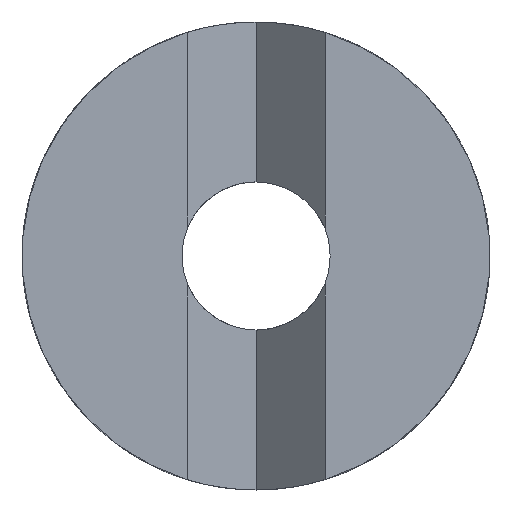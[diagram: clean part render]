
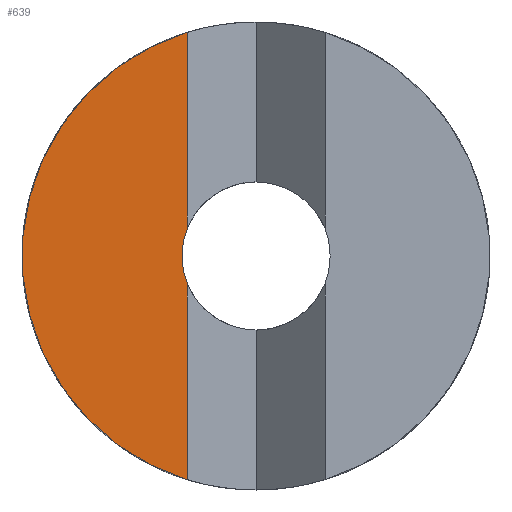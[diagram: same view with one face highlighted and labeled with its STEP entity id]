
A CAD part, left-side view. The second image highlights one B-rep face of the part: STEP entity #639.
In plain terms, the highlighted planar face has unit normal (-1, 0, 0).
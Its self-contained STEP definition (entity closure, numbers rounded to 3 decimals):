
#86=LINE('',#1201,#111);
#87=LINE('',#1202,#112);
#111=VECTOR('',#894,10.);
#112=VECTOR('',#895,10.);
#127=PLANE('',#738);
#158=FACE_OUTER_BOUND('',#197,.T.);
#197=EDGE_LOOP('',(#521,#522,#523,#524));
#230=CIRCLE('',#704,1.5);
#238=CIRCLE('',#734,4.737);
#272=VERTEX_POINT('',#1006);
#273=VERTEX_POINT('',#1008);
#295=VERTEX_POINT('',#1077);
#296=VERTEX_POINT('',#1079);
#341=EDGE_CURVE('',#273,#272,#230,.T.);
#376=EDGE_CURVE('',#296,#295,#238,.T.);
#389=EDGE_CURVE('',#273,#295,#86,.T.);
#390=EDGE_CURVE('',#296,#272,#87,.T.);
#521=ORIENTED_EDGE('',*,*,#376,.T.);
#522=ORIENTED_EDGE('',*,*,#389,.F.);
#523=ORIENTED_EDGE('',*,*,#341,.T.);
#524=ORIENTED_EDGE('',*,*,#390,.F.);
#639=ADVANCED_FACE('',(#158),#127,.T.);
#704=AXIS2_PLACEMENT_3D('',#1009,#811,#812);
#734=AXIS2_PLACEMENT_3D('',#1080,#883,#884);
#738=AXIS2_PLACEMENT_3D('',#1200,#892,#893);
#811=DIRECTION('center_axis',(1.,0.,0.));
#812=DIRECTION('ref_axis',(0.,1.,0.));
#883=DIRECTION('center_axis',(-1.,0.,0.));
#884=DIRECTION('ref_axis',(0.,-0.257,-0.966));
#892=DIRECTION('center_axis',(-1.,0.,0.));
#893=DIRECTION('ref_axis',(0.,-1.,0.));
#894=DIRECTION('',(0.,0.,-1.));
#895=DIRECTION('',(0.,0.,-1.));
#1006=CARTESIAN_POINT('',(0.381,29.972,6.261));
#1008=CARTESIAN_POINT('',(0.381,29.972,5.169));
#1009=CARTESIAN_POINT('Origin',(0.381,28.575,5.715));
#1077=CARTESIAN_POINT('',(0.381,29.972,1.189));
#1079=CARTESIAN_POINT('',(0.381,29.972,10.241));
#1080=CARTESIAN_POINT('Origin',(0.381,28.575,5.715));
#1200=CARTESIAN_POINT('Origin',(0.381,28.575,5.715));
#1201=CARTESIAN_POINT('',(0.381,29.972,7.269));
#1202=CARTESIAN_POINT('',(0.381,29.972,7.269));
